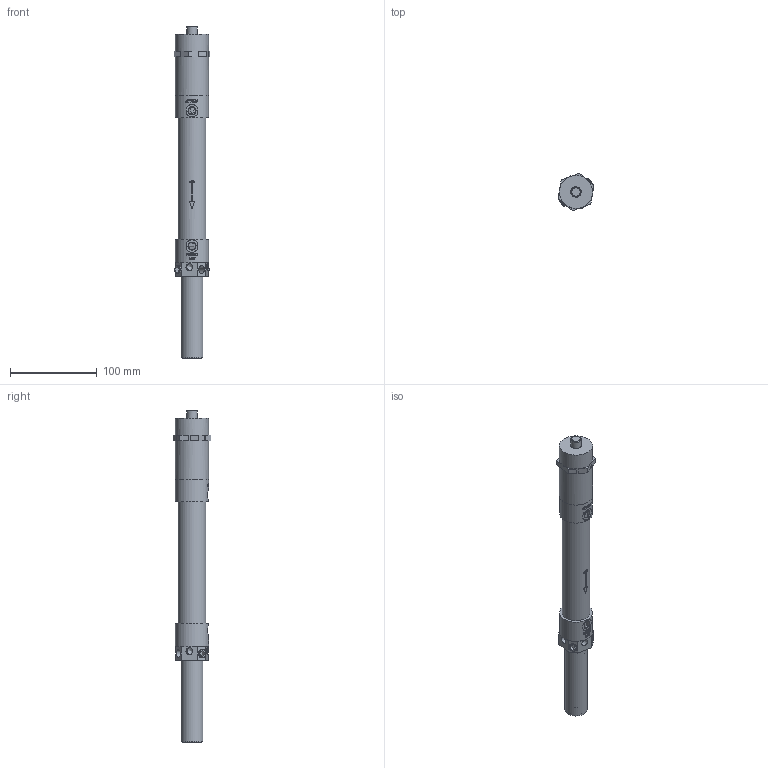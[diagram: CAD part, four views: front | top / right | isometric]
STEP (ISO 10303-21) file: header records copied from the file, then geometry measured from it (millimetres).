
FILE_DESCRIPTION(/* description */ ('ASSY,STANDARD (mm)'),/* implementation_level */ '2;1');
FILE_NAME(/* name */ 'ASSY,VFIA,50MM,CLAMP MOUNT,140MM,S2_622-89771_ALLPOS_20260323.stp',/* time_stamp */ '2026-03-23T14:02:29-04:00',/* author */ ('ASSY,VFIA,50MM,CLAMP MOUNT,140MM,S2'),/* organization */ (''),/* preprocessor_version */ 'ST-DEVELOPER v20',/* originating_system */ 'Autodesk Inventor 2024',/* authorisation */ '');
FILE_SCHEMA (('AUTOMOTIVE_DESIGN { 1 0 10303 214 3 1 1 }'));
Products named in the file (18): ASSY,VFIA,50MM,CLAMP MOUNT,140MM,S2_0004828629_TOP; ASSY,VFIA,50MM,CLAMP MOUNT,140MM,S2_0004828629; HOLDER,LVDT,CLAMP_MNT,140MM; FIT, BRASS, PIPE, PLUG 1_8_ _1NLV5; ASSY,ROD,PISTON,69MM,IA,140MM,CLMP_MNT; ROD,PISTON,IA,CLAMP_MOUNT,FOR_140MM_0003168663; O-RING, 020_1K91A; CORE,VF,IA,SENSING_69MM,78MM_LENGTH_0002711485; LOCK,PIN,IA_0002498416; REPLACE WITH - 0003600407_0001978302; VF87H-2-25_0004828039; VF87H-2-25_0004828041; AS568-117; O-RING,AS568,DUROM 70,3_8 in ID X 1_8 in_0000750627; VFAHSS-2-369.ipt_0004828049; O-RING, AS568, DUROM 70, 13_16_IDX1_16_1WMF6; BALL, SS, 1.75 MM DIA_0002381368; ASSY,INSERT,IA,69MM_STROKE_0003379980
Assembly tree (19 placements, depth 4):
  ASSY,VFIA,50MM,CLAMP MOUNT,140MM,S2_0004828629_TOP
    ASSY,VFIA,50MM,CLAMP MOUNT,140MM,S2_0004828629
      HOLDER,LVDT,CLAMP_MNT,140MM
      FIT, BRASS, PIPE, PLUG 1_8_ _1NLV5  x2
      ASSY,ROD,PISTON,69MM,IA,140MM,CLMP_MNT
        ROD,PISTON,IA,CLAMP_MOUNT,FOR_140MM_0003168663
        O-RING, 020_1K91A
        CORE,VF,IA,SENSING_69MM,78MM_LENGTH_0002711485
        LOCK,PIN,IA_0002498416
        REPLACE WITH - 0003600407_0001978302
      VF87H-2-25_0004828039
        VF87H-2-25_0004828041
        AS568-117
        O-RING,AS568,DUROM 70,3_8 in ID X 1_8 in_0000750627
        VFAHSS-2-369.ipt_0004828049
        O-RING, AS568, DUROM 70, 13_16_IDX1_16_1WMF6  x2
        BALL, SS, 1.75 MM DIA_0002381368
      ASSY,INSERT,IA,69MM_STROKE_0003379980
Bounding box: 41.22 x 43.39 x 381.87 mm (x, y, z)
Volume: 239120.7 mm3; surface area: 103055.6 mm2
Topology: 17 solids, 17 shells, 459 faces, 1129 edges, 744 vertices
Faces by surface type: plane 223, cylinder 103, bspline 93, cone 32, torus 7, sphere 1
Full cylindrical faces by diameter (mm): 1.587 x1, 2.381 x8, 3.937 x1, 4 x2, 4.75 x3, 6 x1, 6.502 x2, 7.937 x4, 8.5 x1, 8.731 x4, 9.459 x1, 9.525 x1, 9.9 x1, 10.82 x2, 11.113 x2, 12 x1, 14.287 x1, 14.961 x1, 15.748 x1, 16.272 x1, 19.05 x2, 20.269 x1, 20.777 x3, 21.006 x1, 22.098 x1, 22.225 x1, 23.343 x4, 23.622 x1, 24.842 x2, 24.892 x1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
Entity records: 36131 total; most frequent: CARTESIAN_POINT 25048, ORIENTED_EDGE 2164, DIRECTION 2059, EDGE_CURVE 1082, AXIS2_PLACEMENT_3D 780, VERTEX_POINT 720, EDGE_LOOP 546, LINE 499
